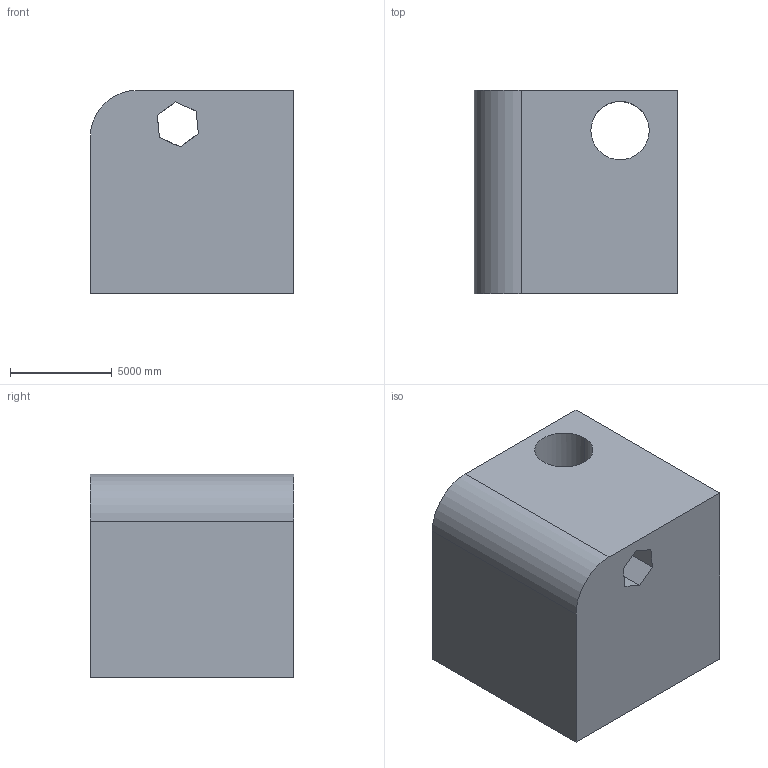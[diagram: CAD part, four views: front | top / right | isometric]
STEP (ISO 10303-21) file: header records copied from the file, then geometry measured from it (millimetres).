
FILE_DESCRIPTION (( 'STEP AP203' ), '1' );
FILE_NAME ('1574.STEP', '2022-08-18T15:53:30', ( 'user' ), ( '' ), 'SwSTEP 2.0', 'SolidWorks 2021', '' );
FILE_SCHEMA (( 'CONFIG_CONTROL_DESIGN' ));
Length unit declared in the file: centimetre
Products named in the file (1): 1574
Bounding box: 10000 x 10000 x 10000 mm (x, y, z)
Volume: 844807872789.4 mm3; surface area: 760789127.9 mm2
Topology: 1 solids, 1 shells, 37 faces, 108 edges, 72 vertices
Faces by surface type: plane 25, cylinder 12
Entity records: 1721 total; most frequent: CARTESIAN_POINT 682, ORIENTED_EDGE 216, DIRECTION 184, EDGE_CURVE 108, VERTEX_POINT 72, LINE 68, VECTOR 68, AXIS2_PLACEMENT_3D 58
